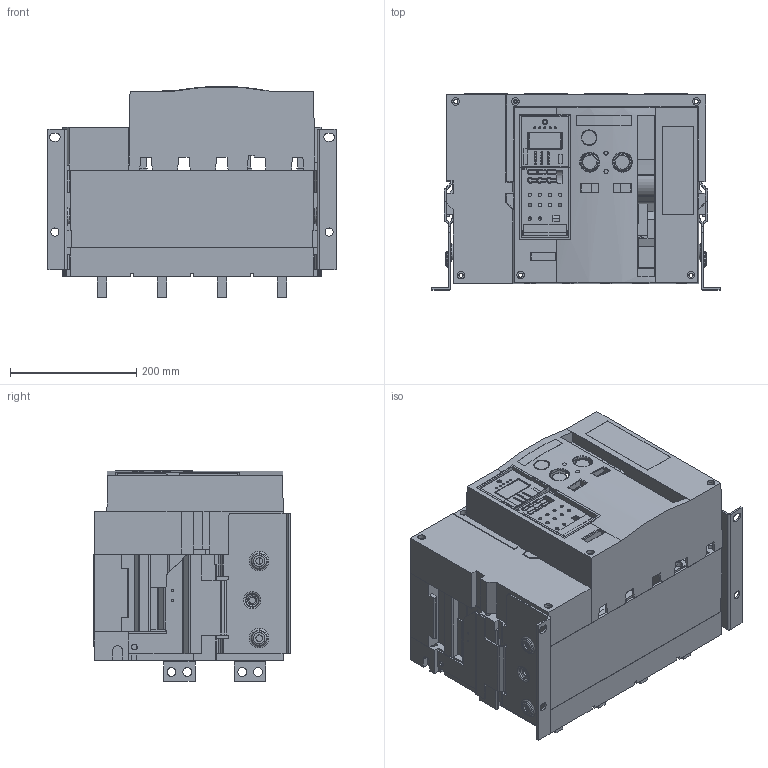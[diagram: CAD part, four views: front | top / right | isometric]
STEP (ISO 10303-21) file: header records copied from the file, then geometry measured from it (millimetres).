
FILE_DESCRIPTION (( 'STEP AP214' ), '1' );
FILE_NAME ('OptiMat A-S2-B-630-1600-4P-F-V.STEP', '2023-07-31T06:54:28', ( '' ), ( '' ), 'SwSTEP 2.0', 'SolidWorks 2018', '' );
FILE_SCHEMA (( 'AUTOMOTIVE_DESIGN' ));
Length unit declared in the file: millimetre
Products named in the file (1): OptiMat A-S2-B-630-1600-4P-F-V
Bounding box: 456 x 310.5 x 333.81 mm (x, y, z)
Volume: 8133395 mm3; surface area: 2749659.2 mm2
Topology: 27 solids, 27 shells, 5019 faces, 13904 edges, 9199 vertices
Faces by surface type: plane 3127, cylinder 1425, cone 250, torus 181, bspline 36
Entity records: 230901 total; most frequent: CARTESIAN_POINT 46300, ORIENTED_EDGE 27772, DIRECTION 25583, EDGE_CURVE 13886, LINE 9333, VECTOR 9333, VERTEX_POINT 9199, AXIS2_PLACEMENT_3D 8125
